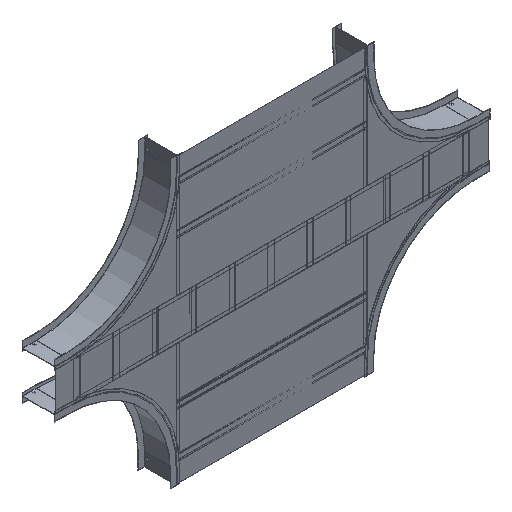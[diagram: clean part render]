
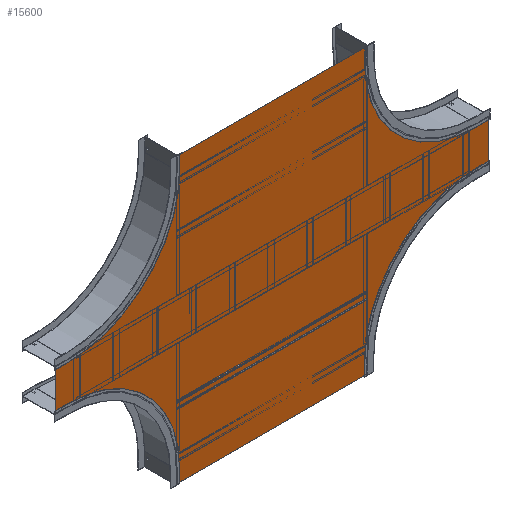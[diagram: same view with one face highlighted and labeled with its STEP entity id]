
A CAD part, isometric view. The second image highlights one B-rep face of the part: STEP entity #15600.
In plain terms, the highlighted planar face has unit normal (0, -1, 0).
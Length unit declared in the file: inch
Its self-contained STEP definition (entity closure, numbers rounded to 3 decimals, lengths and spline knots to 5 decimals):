
#15297=DIRECTION('',(0.,0.,1.));
#15298=VECTOR('',#15297,8.875);
#15299=CARTESIAN_POINT('',(-47.875,0.,-4.4375));
#15300=LINE('',#15299,#15298);
#15301=DIRECTION('',(1.,0.,0.));
#15302=VECTOR('',#15301,2.785);
#15303=CARTESIAN_POINT('',(-47.875,0.,4.4375));
#15304=LINE('',#15303,#15302);
#15305=CARTESIAN_POINT('',(-45.09,0.,28.59));
#15306=DIRECTION('',(0.,-1.,0.));
#15307=DIRECTION('',(0.,0.,-1.));
#15308=AXIS2_PLACEMENT_3D('',#15305,#15306,#15307);
#15310=DIRECTION('',(0.,0.,1.));
#15311=VECTOR('',#15310,2.785);
#15312=CARTESIAN_POINT('',(-20.9375,0.,28.59));
#15313=LINE('',#15312,#15311);
#15314=DIRECTION('',(1.,0.,0.));
#15315=VECTOR('',#15314,41.875);
#15316=CARTESIAN_POINT('',(-20.9375,0.,31.375));
#15317=LINE('',#15316,#15315);
#15318=DIRECTION('',(0.,0.,-1.));
#15319=VECTOR('',#15318,2.785);
#15320=CARTESIAN_POINT('',(20.9375,0.,31.375));
#15321=LINE('',#15320,#15319);
#15322=CARTESIAN_POINT('',(45.09,0.,28.59));
#15323=DIRECTION('',(0.,-1.,0.));
#15324=DIRECTION('',(-1.,0.,0.));
#15325=AXIS2_PLACEMENT_3D('',#15322,#15323,#15324);
#15327=DIRECTION('',(1.,0.,0.));
#15328=VECTOR('',#15327,2.785);
#15329=CARTESIAN_POINT('',(45.09,0.,4.4375));
#15330=LINE('',#15329,#15328);
#15331=DIRECTION('',(0.,0.,-1.));
#15332=VECTOR('',#15331,8.875);
#15333=CARTESIAN_POINT('',(47.875,0.,4.4375));
#15334=LINE('',#15333,#15332);
#15335=DIRECTION('',(-1.,0.,0.));
#15336=VECTOR('',#15335,2.785);
#15337=CARTESIAN_POINT('',(47.875,0.,-4.4375));
#15338=LINE('',#15337,#15336);
#15339=CARTESIAN_POINT('',(45.09,0.,-28.59));
#15340=DIRECTION('',(0.,-1.,0.));
#15341=DIRECTION('',(0.,0.,1.));
#15342=AXIS2_PLACEMENT_3D('',#15339,#15340,#15341);
#15344=DIRECTION('',(0.,0.,-1.));
#15345=VECTOR('',#15344,2.785);
#15346=CARTESIAN_POINT('',(20.9375,0.,-28.59));
#15347=LINE('',#15346,#15345);
#15348=DIRECTION('',(-1.,0.,0.));
#15349=VECTOR('',#15348,41.875);
#15350=CARTESIAN_POINT('',(20.9375,0.,-31.375));
#15351=LINE('',#15350,#15349);
#15352=DIRECTION('',(0.,0.,1.));
#15353=VECTOR('',#15352,2.785);
#15354=CARTESIAN_POINT('',(-20.9375,0.,-31.375));
#15355=LINE('',#15354,#15353);
#15356=CARTESIAN_POINT('',(-45.09,0.,-28.59));
#15357=DIRECTION('',(0.,-1.,0.));
#15358=DIRECTION('',(1.,0.,0.));
#15359=AXIS2_PLACEMENT_3D('',#15356,#15357,#15358);
#15361=DIRECTION('',(-1.,0.,0.));
#15362=VECTOR('',#15361,2.785);
#15363=CARTESIAN_POINT('',(-45.09,0.,-4.4375));
#15364=LINE('',#15363,#15362);
#15497=CARTESIAN_POINT('',(-47.875,0.,-4.4375));
#15498=CARTESIAN_POINT('',(-47.875,0.,4.4375));
#15499=VERTEX_POINT('',#15497);
#15500=VERTEX_POINT('',#15498);
#15501=CARTESIAN_POINT('',(-45.09,0.,4.4375));
#15502=VERTEX_POINT('',#15501);
#15503=CARTESIAN_POINT('',(-20.9375,0.,28.59));
#15504=VERTEX_POINT('',#15503);
#15505=CARTESIAN_POINT('',(-20.9375,0.,31.375));
#15506=VERTEX_POINT('',#15505);
#15507=CARTESIAN_POINT('',(20.9375,0.,31.375));
#15508=VERTEX_POINT('',#15507);
#15509=CARTESIAN_POINT('',(20.9375,0.,28.59));
#15510=VERTEX_POINT('',#15509);
#15511=CARTESIAN_POINT('',(45.09,0.,4.4375));
#15512=VERTEX_POINT('',#15511);
#15513=CARTESIAN_POINT('',(47.875,0.,4.4375));
#15514=VERTEX_POINT('',#15513);
#15515=CARTESIAN_POINT('',(47.875,0.,-4.4375));
#15516=VERTEX_POINT('',#15515);
#15517=CARTESIAN_POINT('',(45.09,0.,-4.4375));
#15518=VERTEX_POINT('',#15517);
#15519=CARTESIAN_POINT('',(20.9375,0.,-28.59));
#15520=VERTEX_POINT('',#15519);
#15521=CARTESIAN_POINT('',(20.9375,0.,-31.375));
#15522=VERTEX_POINT('',#15521);
#15523=CARTESIAN_POINT('',(-20.9375,0.,-31.375));
#15524=VERTEX_POINT('',#15523);
#15525=CARTESIAN_POINT('',(-20.9375,0.,-28.59));
#15526=VERTEX_POINT('',#15525);
#15527=CARTESIAN_POINT('',(-45.09,0.,-4.4375));
#15528=VERTEX_POINT('',#15527);
#15561=CARTESIAN_POINT('',(0.,0.,0.));
#15562=DIRECTION('',(0.,1.,0.));
#15563=DIRECTION('',(1.,0.,0.));
#15564=AXIS2_PLACEMENT_3D('',#15561,#15562,#15563);
#15565=PLANE('',#15564);
#15567=ORIENTED_EDGE('',*,*,#15566,.T.);
#15569=ORIENTED_EDGE('',*,*,#15568,.T.);
#15571=ORIENTED_EDGE('',*,*,#15570,.T.);
#15573=ORIENTED_EDGE('',*,*,#15572,.T.);
#15575=ORIENTED_EDGE('',*,*,#15574,.T.);
#15577=ORIENTED_EDGE('',*,*,#15576,.T.);
#15579=ORIENTED_EDGE('',*,*,#15578,.T.);
#15581=ORIENTED_EDGE('',*,*,#15580,.T.);
#15583=ORIENTED_EDGE('',*,*,#15582,.T.);
#15585=ORIENTED_EDGE('',*,*,#15584,.T.);
#15587=ORIENTED_EDGE('',*,*,#15586,.T.);
#15589=ORIENTED_EDGE('',*,*,#15588,.T.);
#15591=ORIENTED_EDGE('',*,*,#15590,.T.);
#15593=ORIENTED_EDGE('',*,*,#15592,.T.);
#15595=ORIENTED_EDGE('',*,*,#15594,.T.);
#15597=ORIENTED_EDGE('',*,*,#15596,.T.);
#15598=EDGE_LOOP('',(#15567,#15569,#15571,#15573,#15575,#15577,#15579,#15581,
#15583,#15585,#15587,#15589,#15591,#15593,#15595,#15597));
#15599=FACE_OUTER_BOUND('',#15598,.F.);
#15600=ADVANCED_FACE('',(#15599),#15565,.F.);
#15309=CIRCLE('',#15308,24.1525);
#15326=CIRCLE('',#15325,24.1525);
#15343=CIRCLE('',#15342,24.1525);
#15360=CIRCLE('',#15359,24.1525);
#15566=EDGE_CURVE('',#15499,#15500,#15300,.T.);
#15568=EDGE_CURVE('',#15500,#15502,#15304,.T.);
#15570=EDGE_CURVE('',#15502,#15504,#15309,.T.);
#15572=EDGE_CURVE('',#15504,#15506,#15313,.T.);
#15574=EDGE_CURVE('',#15506,#15508,#15317,.T.);
#15576=EDGE_CURVE('',#15508,#15510,#15321,.T.);
#15578=EDGE_CURVE('',#15510,#15512,#15326,.T.);
#15580=EDGE_CURVE('',#15512,#15514,#15330,.T.);
#15582=EDGE_CURVE('',#15514,#15516,#15334,.T.);
#15584=EDGE_CURVE('',#15516,#15518,#15338,.T.);
#15586=EDGE_CURVE('',#15518,#15520,#15343,.T.);
#15588=EDGE_CURVE('',#15520,#15522,#15347,.T.);
#15590=EDGE_CURVE('',#15522,#15524,#15351,.T.);
#15592=EDGE_CURVE('',#15524,#15526,#15355,.T.);
#15594=EDGE_CURVE('',#15526,#15528,#15360,.T.);
#15596=EDGE_CURVE('',#15528,#15499,#15364,.T.);
